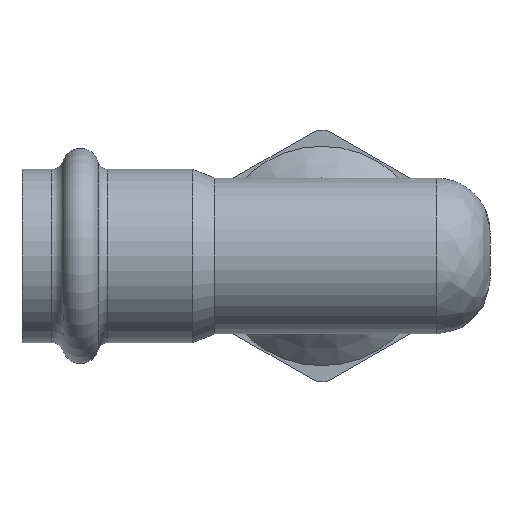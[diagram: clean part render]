
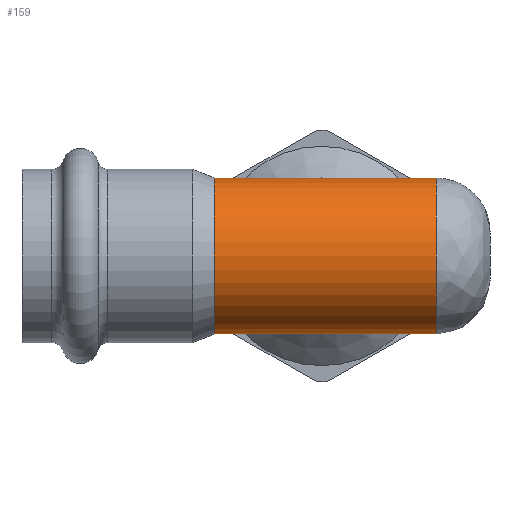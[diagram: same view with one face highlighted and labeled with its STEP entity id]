
A CAD part, front view. The second image highlights one B-rep face of the part: STEP entity #159.
In plain terms, the highlighted cylindrical face has radius 16 mm (diameter 32 mm), a full revolution.
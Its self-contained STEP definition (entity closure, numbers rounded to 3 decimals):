
#97=ELLIPSE('',#706,23.345,16.);
#98=ELLIPSE('',#707,23.345,16.);
#159=ADVANCED_FACE('',(#264,#265,#266),#193,.T.);
#193=CYLINDRICAL_SURFACE('',#709,16.);
#216=CIRCLE('',#705,16.);
#217=CIRCLE('',#708,16.);
#264=FACE_BOUND('',#318,.T.);
#265=FACE_BOUND('',#319,.T.);
#266=FACE_BOUND('',#320,.T.);
#318=EDGE_LOOP('',(#443,#444));
#319=EDGE_LOOP('',(#445));
#320=EDGE_LOOP('',(#446));
#443=ORIENTED_EDGE('',*,*,#627,.T.);
#444=ORIENTED_EDGE('',*,*,#628,.T.);
#445=ORIENTED_EDGE('',*,*,#629,.F.);
#446=ORIENTED_EDGE('',*,*,#626,.T.);
#572=VERTEX_POINT('',#1067);
#573=VERTEX_POINT('',#1097);
#574=VERTEX_POINT('',#1098);
#575=VERTEX_POINT('',#1101);
#626=EDGE_CURVE('',#572,#572,#216,.T.);
#627=EDGE_CURVE('',#573,#574,#97,.T.);
#628=EDGE_CURVE('',#574,#573,#98,.T.);
#629=EDGE_CURVE('',#575,#575,#217,.T.);
#705=AXIS2_PLACEMENT_3D('',#1066,#811,#812);
#706=AXIS2_PLACEMENT_3D('',#1096,#813,#814);
#707=AXIS2_PLACEMENT_3D('',#1099,#815,#816);
#708=AXIS2_PLACEMENT_3D('',#1100,#817,#818);
#709=AXIS2_PLACEMENT_3D('',#1102,#819,#820);
#811=DIRECTION('',(-1.,0.,0.));
#812=DIRECTION('',(0.,0.,1.));
#813=DIRECTION('',(-0.685,-0.728,0.));
#814=DIRECTION('',(-0.728,0.685,0.));
#815=DIRECTION('',(0.685,-0.728,0.));
#816=DIRECTION('',(-0.728,-0.685,0.));
#817=DIRECTION('',(-1.,0.,0.));
#818=DIRECTION('',(0.,0.,1.));
#819=DIRECTION('',(-1.,0.,0.));
#820=DIRECTION('',(0.,0.,1.));
#1066=CARTESIAN_POINT('',(23.5,0.,0.));
#1067=CARTESIAN_POINT('',(23.5,0.,16.));
#1096=CARTESIAN_POINT('',(0.,0.,0.));
#1097=CARTESIAN_POINT('',(0.,0.,
16.));
#1098=CARTESIAN_POINT('',(0.,0.,-16.));
#1099=CARTESIAN_POINT('',(0.,0.,0.));
#1100=CARTESIAN_POINT('',(-22.024,0.,0.));
#1101=CARTESIAN_POINT('',(-22.024,0.,16.));
#1102=CARTESIAN_POINT('',(-16.,0.,0.));
